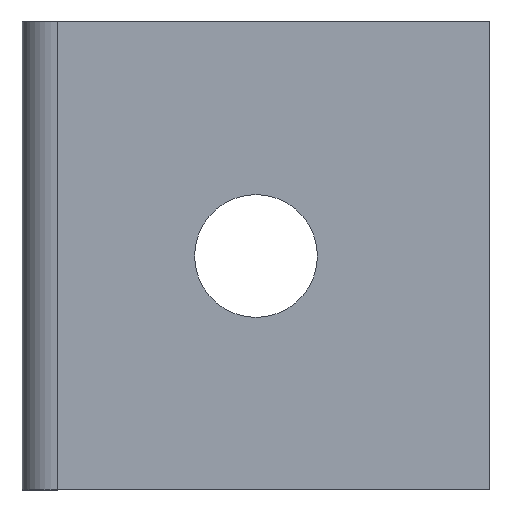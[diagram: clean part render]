
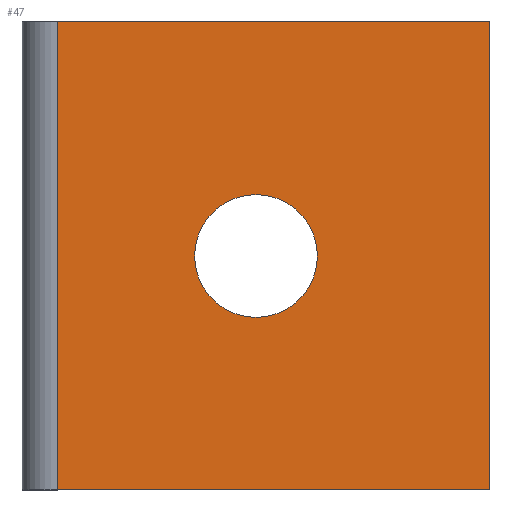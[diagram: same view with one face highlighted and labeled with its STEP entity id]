
A CAD part, front view. The second image highlights one B-rep face of the part: STEP entity #47.
In plain terms, the highlighted planar face has unit normal (0, -1, 0).
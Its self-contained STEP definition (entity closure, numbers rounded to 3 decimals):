
#41 = CARTESIAN_POINT ( 'NONE',  ( 0., 0., -40. ) ) ;
#47 = ADVANCED_FACE ( 'NONE', ( #388, #282 ), #179, .T. ) ;
#48 = CARTESIAN_POINT ( 'NONE',  ( 20., 0., -20. ) ) ;
#61 = ORIENTED_EDGE ( 'NONE', *, *, #488, .T. ) ;
#83 = DIRECTION ( 'NONE',  ( 0., 0., -1. ) ) ;
#84 = DIRECTION ( 'NONE',  ( 0., 1., 0. ) ) ;
#85 = VERTEX_POINT ( 'NONE', #137 ) ;
#95 = AXIS2_PLACEMENT_3D ( 'NONE', #41, #257, #83 ) ;
#114 = CARTESIAN_POINT ( 'NONE',  ( 40., 0., -40. ) ) ;
#122 = LINE ( 'NONE', #129, #354 ) ;
#129 = CARTESIAN_POINT ( 'NONE',  ( 0., 0., -40. ) ) ;
#137 = CARTESIAN_POINT ( 'NONE',  ( 40., 0., 0. ) ) ;
#153 = LINE ( 'NONE', #473, #471 ) ;
#163 = DIRECTION ( 'NONE',  ( 1., 0., 0. ) ) ;
#174 = CARTESIAN_POINT ( 'NONE',  ( 3., 0., 0. ) ) ;
#179 = PLANE ( 'NONE',  #95 ) ;
#196 = VECTOR ( 'NONE', #392, 1000. ) ;
#201 = ORIENTED_EDGE ( 'NONE', *, *, #440, .T. ) ;
#210 = ORIENTED_EDGE ( 'NONE', *, *, #387, .T. ) ;
#217 = EDGE_CURVE ( 'NONE', #486, #85, #259, .T. ) ;
#221 = DIRECTION ( 'NONE',  ( 0., 0., 1. ) ) ;
#229 = CARTESIAN_POINT ( 'NONE',  ( 40., 0., -40. ) ) ;
#233 = CIRCLE ( 'NONE', #395, 5.25 ) ;
#244 = ORIENTED_EDGE ( 'NONE', *, *, #503, .F. ) ;
#257 = DIRECTION ( 'NONE',  ( 0., -1., 0. ) ) ;
#259 = LINE ( 'NONE', #114, #359 ) ;
#263 = DIRECTION ( 'NONE',  ( 0., 0., 1. ) ) ;
#268 = CARTESIAN_POINT ( 'NONE',  ( 20., 0., -25.25 ) ) ;
#282 = FACE_OUTER_BOUND ( 'NONE', #420, .T. ) ;
#291 = CIRCLE ( 'NONE', #495, 5.25 ) ;
#297 = VERTEX_POINT ( 'NONE', #348 ) ;
#334 = VERTEX_POINT ( 'NONE', #268 ) ;
#340 = CARTESIAN_POINT ( 'NONE',  ( 0., 0., 0. ) ) ;
#348 = CARTESIAN_POINT ( 'NONE',  ( 20., 0., -14.75 ) ) ;
#354 = VECTOR ( 'NONE', #163, 1000. ) ;
#356 = DIRECTION ( 'NONE',  ( 0., 0., -1. ) ) ;
#359 = VECTOR ( 'NONE', #263, 1000. ) ;
#379 = DIRECTION ( 'NONE',  ( 0., 1., 0. ) ) ;
#387 = EDGE_CURVE ( 'NONE', #535, #486, #122, .T. ) ;
#388 = FACE_BOUND ( 'NONE', #412, .T. ) ;
#392 = DIRECTION ( 'NONE',  ( 1., 0., 0. ) ) ;
#395 = AXIS2_PLACEMENT_3D ( 'NONE', #48, #379, #559 ) ;
#412 = EDGE_LOOP ( 'NONE', ( #61, #201 ) ) ;
#420 = EDGE_LOOP ( 'NONE', ( #244, #549, #210, #543 ) ) ;
#434 = CARTESIAN_POINT ( 'NONE',  ( 3., 0., -40. ) ) ;
#440 = EDGE_CURVE ( 'NONE', #334, #297, #291, .T. ) ;
#444 = LINE ( 'NONE', #340, #196 ) ;
#462 = VERTEX_POINT ( 'NONE', #174 ) ;
#471 = VECTOR ( 'NONE', #356, 1000. ) ;
#473 = CARTESIAN_POINT ( 'NONE',  ( 3., 0., -40. ) ) ;
#486 = VERTEX_POINT ( 'NONE', #229 ) ;
#488 = EDGE_CURVE ( 'NONE', #297, #334, #233, .T. ) ;
#495 = AXIS2_PLACEMENT_3D ( 'NONE', #506, #84, #221 ) ;
#503 = EDGE_CURVE ( 'NONE', #462, #85, #444, .T. ) ;
#506 = CARTESIAN_POINT ( 'NONE',  ( 20., 0., -20. ) ) ;
#535 = VERTEX_POINT ( 'NONE', #434 ) ;
#543 = ORIENTED_EDGE ( 'NONE', *, *, #217, .T. ) ;
#549 = ORIENTED_EDGE ( 'NONE', *, *, #557, .T. ) ;
#557 = EDGE_CURVE ( 'NONE', #462, #535, #153, .T. ) ;
#559 = DIRECTION ( 'NONE',  ( 0., 0., 1. ) ) ;
